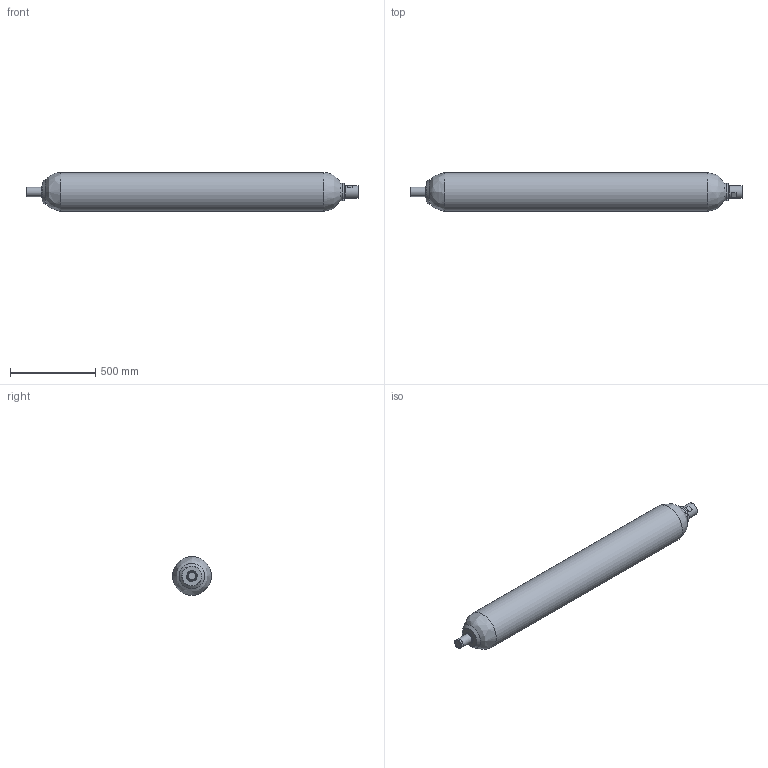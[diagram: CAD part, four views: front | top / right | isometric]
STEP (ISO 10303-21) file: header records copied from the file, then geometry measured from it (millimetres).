
FILE_DESCRIPTION(/* description */ (''),/* implementation_level */ '2;1');
FILE_NAME(/* name */ 'F:\STEP\ALLEGE\GAMME_EHV_STD_480bar\10950301125.stp',/* time_stamp */ '2014-04-15T14:00:55+02:00',/* author */ ('OB222728'),/* organization */ (''),/* preprocessor_version */ 'ST-DEVELOPER v15.2',/* originating_system */ 'Autodesk Inventor 2014',/* authorisation */ '');
FILE_SCHEMA (('AUTOMOTIVE_DESIGN { 1 0 10303 214 3 1 1 }'));
Length unit declared in the file: millimetre
Products named in the file (11): CA106388-00190; CB110082-02500; BE105544-00200; EC100990-00200; BC110298-02520OMAR; PF091202-05200; BP106659-00200 BOUCHON DE PROTECTION; BP106659-00200 BOUCHON PLASTIQUE; BP106659-00200; EC101001-00200; 10950301125
Bounding box: 1942.48 x 228 x 228 mm (x, y, z)
Volume: 16935287.7 mm3; surface area: 2521420 mm2
Topology: 8 solids, 8 shells, 137 faces, 311 edges, 197 vertices
Faces by surface type: plane 52, cylinder 39, cone 30, torus 12, bspline 4
Full cylindrical faces by diameter (mm): 12 x1, 15 x6, 18 x1, 20 x1, 44 x1, 48 x2, 48.376 x1, 48.5 x1, 50.8 x1, 54 x2, 55 x2, 56.656 x1, 60 x1, 76 x2, 76.835 x1, 79 x1, 80 x2, 88.4 x1, 88.9 x1, 88.95 x1, 101 x1, 200 x1, 228 x1
Entity records: 3777 total; most frequent: CARTESIAN_POINT 798, DIRECTION 640, ORIENTED_EDGE 456, AXIS2_PLACEMENT_3D 292, EDGE_LOOP 234, EDGE_CURVE 228, VERTEX_POINT 178, CIRCLE 138
